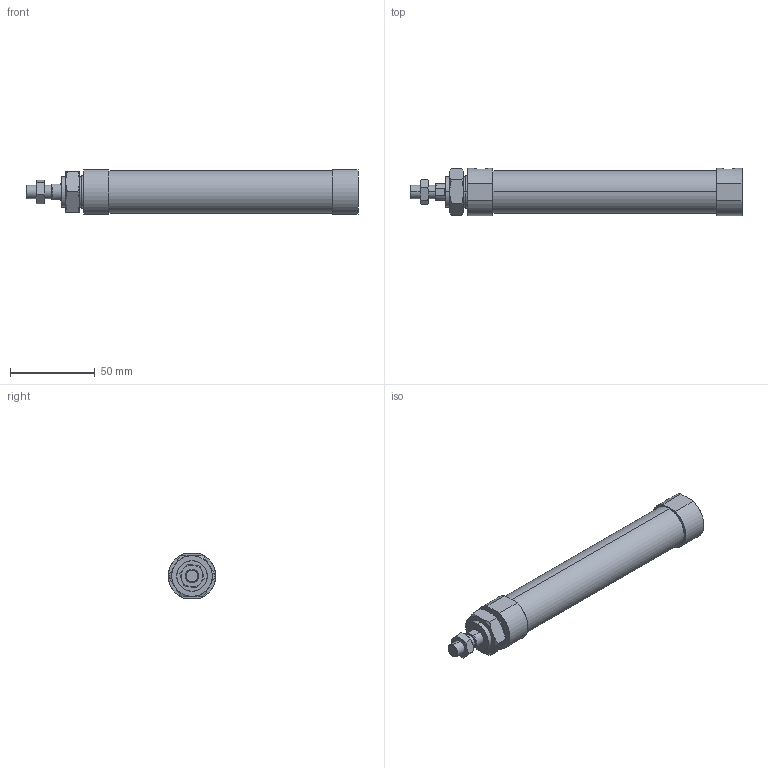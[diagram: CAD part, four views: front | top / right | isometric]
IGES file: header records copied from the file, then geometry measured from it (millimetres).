
Start section: SolidWorks IGES file using analytic representation for surfaces
Global section: file name: C:\Users\Toshiba\Desktop\JGND2-20-100-N.IGS; native system: SolidWorks 2014; preprocessor: SolidWorks 2014; author: Toshiba; date: 160804.103046; units: millimetre
Bounding box: 196 x 28 x 26 mm (x, y, z)
Surface area: 18572.9 mm2 (no closed solid volume)
Topology: 0 solids, 0 shells, 84 faces, 1468 edges, 1468 vertices
Faces by surface type: bspline 58, revolution 26
